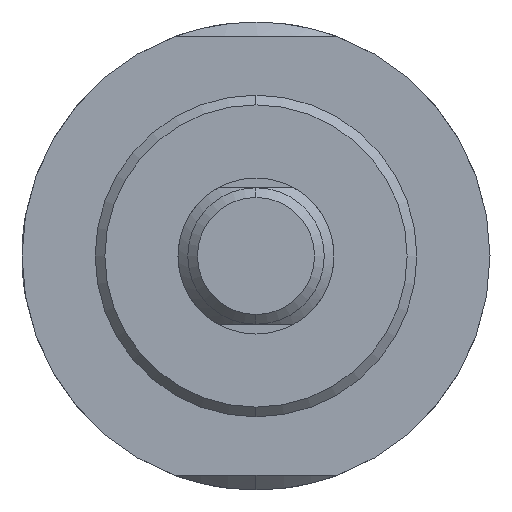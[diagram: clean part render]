
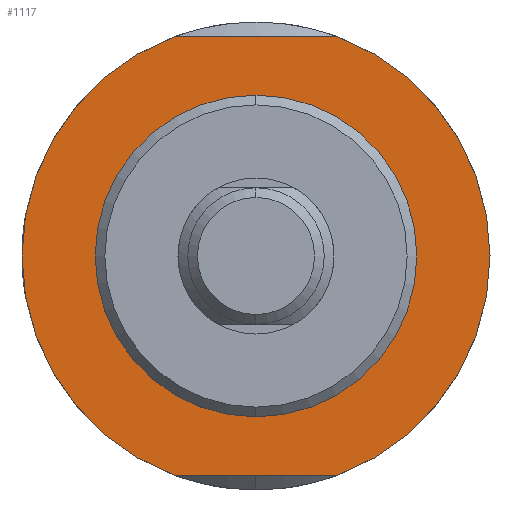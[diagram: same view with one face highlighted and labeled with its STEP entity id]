
A CAD part, left-side view. The second image highlights one B-rep face of the part: STEP entity #1117.
In plain terms, the highlighted planar face has unit normal (-1, 0, 0).
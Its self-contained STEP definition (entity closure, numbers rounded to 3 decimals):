
#50 = VECTOR ( 'NONE', #109, 1000. ) ;
#60 = AXIS2_PLACEMENT_3D ( 'NONE', #1304, #1823, #1910 ) ;
#80 = CARTESIAN_POINT ( 'NONE',  ( 50., 0., 0. ) ) ;
#109 = DIRECTION ( 'NONE',  ( 0., 1., 0. ) ) ;
#126 = CARTESIAN_POINT ( 'NONE',  ( 50., 0., 0. ) ) ;
#250 = AXIS2_PLACEMENT_3D ( 'NONE', #80, #870, #739 ) ;
#268 = EDGE_LOOP ( 'NONE', ( #724, #1201, #1881, #1672 ) ) ;
#276 = VERTEX_POINT ( 'NONE', #1380 ) ;
#302 = LINE ( 'NONE', #1424, #850 ) ;
#369 = CIRCLE ( 'NONE', #1235, 24. ) ;
#370 = VERTEX_POINT ( 'NONE', #1416 ) ;
#371 = ORIENTED_EDGE ( 'NONE', *, *, #1473, .F. ) ;
#431 = CIRCLE ( 'NONE', #60, 24. ) ;
#454 = CARTESIAN_POINT ( 'NONE',  ( 50., 8.352, -22.5 ) ) ;
#491 = CARTESIAN_POINT ( 'NONE',  ( 50., 0., 0. ) ) ;
#498 = VERTEX_POINT ( 'NONE', #454 ) ;
#520 = LINE ( 'NONE', #1085, #50 ) ;
#532 = DIRECTION ( 'NONE',  ( -1., 0., 0. ) ) ;
#562 = DIRECTION ( 'NONE',  ( 0., -1., 0. ) ) ;
#587 = DIRECTION ( 'NONE',  ( 0., 0., -1. ) ) ;
#629 = EDGE_LOOP ( 'NONE', ( #371, #682 ) ) ;
#661 = CIRCLE ( 'NONE', #250, 16.5 ) ;
#682 = ORIENTED_EDGE ( 'NONE', *, *, #1772, .F. ) ;
#724 = ORIENTED_EDGE ( 'NONE', *, *, #853, .T. ) ;
#739 = DIRECTION ( 'NONE',  ( 0., 0., 1. ) ) ;
#755 = EDGE_CURVE ( 'NONE', #1072, #498, #520, .T. ) ;
#778 = DIRECTION ( 'NONE',  ( 0., 0., 1. ) ) ;
#816 = DIRECTION ( 'NONE',  ( 1., 0., 0. ) ) ;
#824 = DIRECTION ( 'NONE',  ( -1., 0., 0. ) ) ;
#850 = VECTOR ( 'NONE', #562, 1000. ) ;
#853 = EDGE_CURVE ( 'NONE', #370, #498, #431, .T. ) ;
#861 = EDGE_CURVE ( 'NONE', #1072, #1365, #369, .T. ) ;
#870 = DIRECTION ( 'NONE',  ( -1., 0., 0. ) ) ;
#892 = AXIS2_PLACEMENT_3D ( 'NONE', #126, #824, #1249 ) ;
#895 = CARTESIAN_POINT ( 'NONE',  ( 50., -8.352, 22.5 ) ) ;
#1029 = FACE_BOUND ( 'NONE', #629, .T. ) ;
#1072 = VERTEX_POINT ( 'NONE', #1691 ) ;
#1085 = CARTESIAN_POINT ( 'NONE',  ( 50., 15., -22.5 ) ) ;
#1117 = ADVANCED_FACE ( 'NONE', ( #1029, #1132 ), #1278, .F. ) ;
#1132 = FACE_OUTER_BOUND ( 'NONE', #268, .T. ) ;
#1199 = EDGE_CURVE ( 'NONE', #370, #1365, #302, .T. ) ;
#1201 = ORIENTED_EDGE ( 'NONE', *, *, #755, .F. ) ;
#1235 = AXIS2_PLACEMENT_3D ( 'NONE', #491, #532, #778 ) ;
#1249 = DIRECTION ( 'NONE',  ( 0., 0., 1. ) ) ;
#1278 = PLANE ( 'NONE',  #1885 ) ;
#1304 = CARTESIAN_POINT ( 'NONE',  ( 50., 0., 0. ) ) ;
#1365 = VERTEX_POINT ( 'NONE', #895 ) ;
#1380 = CARTESIAN_POINT ( 'NONE',  ( 50., 0., 16.5 ) ) ;
#1416 = CARTESIAN_POINT ( 'NONE',  ( 50., 8.352, 22.5 ) ) ;
#1424 = CARTESIAN_POINT ( 'NONE',  ( 50., 15., 22.5 ) ) ;
#1473 = EDGE_CURVE ( 'NONE', #276, #1915, #661, .T. ) ;
#1641 = CARTESIAN_POINT ( 'NONE',  ( 50., 0., -16.5 ) ) ;
#1672 = ORIENTED_EDGE ( 'NONE', *, *, #1199, .F. ) ;
#1691 = CARTESIAN_POINT ( 'NONE',  ( 50., -8.352, -22.5 ) ) ;
#1754 = CARTESIAN_POINT ( 'NONE',  ( 50., 0., -24. ) ) ;
#1766 = CIRCLE ( 'NONE', #892, 16.5 ) ;
#1772 = EDGE_CURVE ( 'NONE', #1915, #276, #1766, .T. ) ;
#1823 = DIRECTION ( 'NONE',  ( -1., 0., 0. ) ) ;
#1881 = ORIENTED_EDGE ( 'NONE', *, *, #861, .T. ) ;
#1885 = AXIS2_PLACEMENT_3D ( 'NONE', #1754, #816, #587 ) ;
#1910 = DIRECTION ( 'NONE',  ( 0., 0., 1. ) ) ;
#1915 = VERTEX_POINT ( 'NONE', #1641 ) ;
